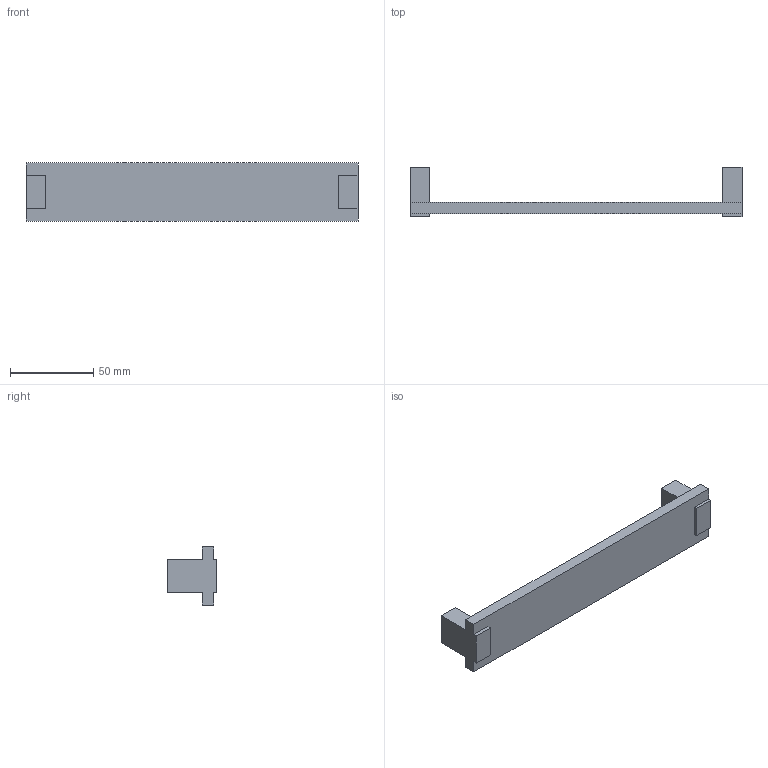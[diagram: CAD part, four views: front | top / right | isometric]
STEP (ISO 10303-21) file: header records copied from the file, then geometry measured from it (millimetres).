
FILE_DESCRIPTION( ( '' ), '1' );
FILE_NAME( 'C:/Documents and Settings/Sachin/Desktop/Sheet 10_1/stp/9113542.stp', '2013-10-22T12:46:50', ( '' ), ( '' ), ' ', ' ', ' ' );
FILE_SCHEMA( ( 'CONFIG_CONTROL_DESIGN' ) );
Length unit declared in the file: millimetre
Products named in the file (1): 1
Bounding box: 200 x 30 x 35 mm (x, y, z)
Volume: 59249.8 mm3; surface area: 20338 mm2
Topology: 1 solids, 1 shells, 28 faces, 72 edges, 48 vertices
Faces by surface type: plane 24, cylinder 4
Entity records: 888 total; most frequent: CARTESIAN_POINT 149, ORIENTED_EDGE 144, DIRECTION 138, EDGE_CURVE 72, LINE 64, VECTOR 64, VERTEX_POINT 48, AXIS2_PLACEMENT_3D 37
